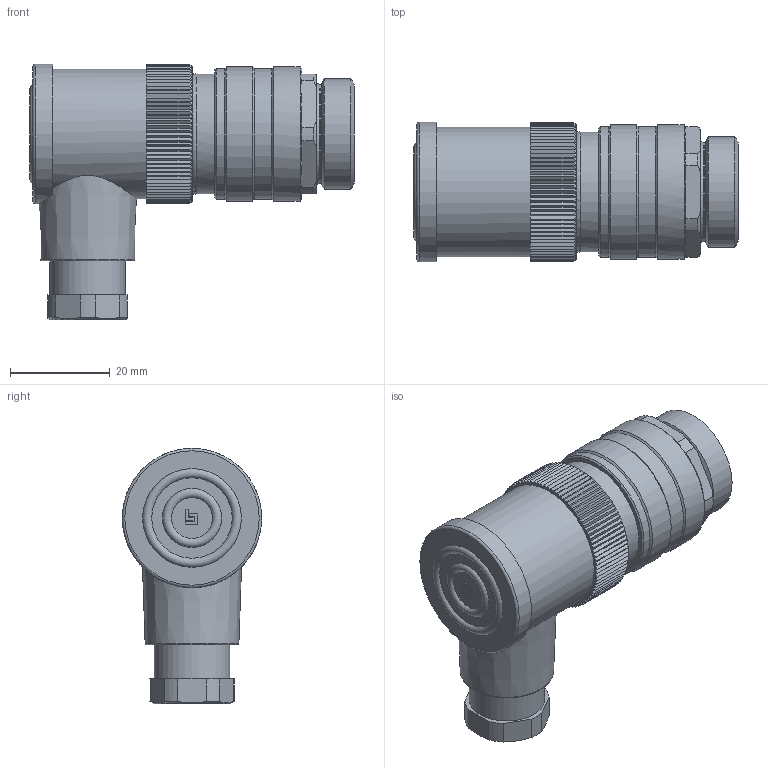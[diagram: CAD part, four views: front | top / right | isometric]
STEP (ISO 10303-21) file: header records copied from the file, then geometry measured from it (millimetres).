
FILE_DESCRIPTION(/* description */ (''),/* implementation_level */ '2;1');
FILE_NAME(/* name */ '99-2445-52-05_bg.stp',/* time_stamp */ '2010-06-02T16:26:16+02:00',/* author */ (''),/* organization */ (''),/* preprocessor_version */ 'ST-DEVELOPER v11',/* originating_system */ 'UGS - NX 5.0',/* authorisation */ '');
FILE_SCHEMA (('CONFIG_CONTROL_DESIGN'));
Length unit declared in the file: millimetre
Products named in the file (1): kbor0146dksk
Bounding box: 65.1 x 28 x 51.3 mm (x, y, z)
Volume: 38487.6 mm3; surface area: 10601.1 mm2
Topology: 1 solids, 1 shells, 423 faces, 978 edges, 580 vertices
Faces by surface type: plane 242, cone 114, cylinder 44, torus 13, bspline 10
Full cylindrical faces by diameter (mm): 2 x5, 3.3 x5, 15.2 x1, 17.8 x1, 18.1 x1, 18.5 x1, 20 x1, 22.187 x1, 24 x1, 26 x1, 26.3 x2, 27 x2, 28 x1
Entity records: 11729 total; most frequent: CARTESIAN_POINT 2821, ORIENTED_EDGE 1788, DIRECTION 1735, EDGE_CURVE 894, AXIS2_PLACEMENT_3D 635, VERTEX_POINT 557, EDGE_LOOP 507, LINE 465
